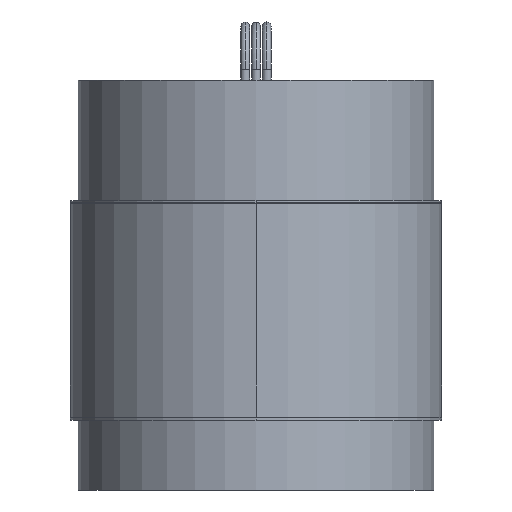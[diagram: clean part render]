
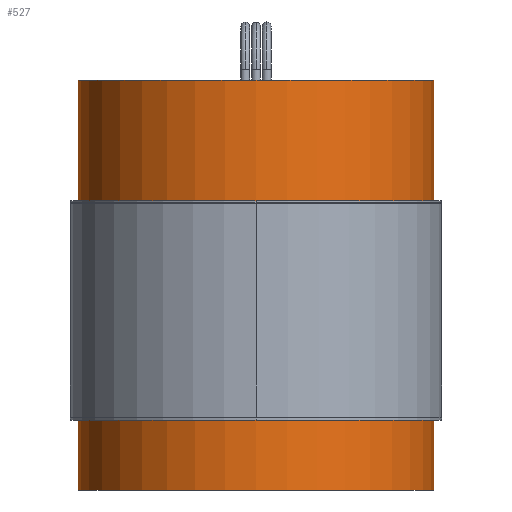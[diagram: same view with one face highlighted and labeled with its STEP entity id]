
A CAD part, front view. The second image highlights one B-rep face of the part: STEP entity #527.
In plain terms, the highlighted cylindrical face has radius 41.974 mm (diameter 83.947 mm), a partial arc.
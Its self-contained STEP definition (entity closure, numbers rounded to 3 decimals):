
#13 = DIRECTION ( 'NONE',  ( 0., 0., 1. ) ) ;
#15 = VERTEX_POINT ( 'NONE', #2223 ) ;
#45 = EDGE_LOOP ( 'NONE', ( #2315, #823, #1054, #630 ) ) ;
#66 = CARTESIAN_POINT ( 'NONE',  ( -41.974, 0., -42.418 ) ) ;
#114 = CIRCLE ( 'NONE', #2142, 41.974 ) ;
#141 = EDGE_CURVE ( 'NONE', #2526, #242, #383, .T. ) ;
#233 = VERTEX_POINT ( 'NONE', #66 ) ;
#242 = VERTEX_POINT ( 'NONE', #1011 ) ;
#383 = LINE ( 'NONE', #3018, #1303 ) ;
#398 = CARTESIAN_POINT ( 'NONE',  ( -41.974, 0., -42.418 ) ) ;
#455 = FACE_OUTER_BOUND ( 'NONE', #45, .T. ) ;
#527 = ADVANCED_FACE ( 'NONE', ( #455 ), #2802, .T. ) ;
#630 = ORIENTED_EDGE ( 'NONE', *, *, #2702, .F. ) ;
#702 = DIRECTION ( 'NONE',  ( 1., 0., 0. ) ) ;
#823 = ORIENTED_EDGE ( 'NONE', *, *, #2201, .T. ) ;
#831 = VECTOR ( 'NONE', #3038, 1000. ) ;
#886 = AXIS2_PLACEMENT_3D ( 'NONE', #1301, #2206, #1007 ) ;
#907 = LINE ( 'NONE', #398, #831 ) ;
#1007 = DIRECTION ( 'NONE',  ( 1., 0., 0. ) ) ;
#1011 = CARTESIAN_POINT ( 'NONE',  ( 41.974, 0., 54.356 ) ) ;
#1054 = ORIENTED_EDGE ( 'NONE', *, *, #141, .T. ) ;
#1301 = CARTESIAN_POINT ( 'NONE',  ( 0., 0., 54.356 ) ) ;
#1303 = VECTOR ( 'NONE', #2798, 1000. ) ;
#1561 = CARTESIAN_POINT ( 'NONE',  ( 41.974, 0., -42.418 ) ) ;
#2142 = AXIS2_PLACEMENT_3D ( 'NONE', #2589, #2635, #2606 ) ;
#2201 = EDGE_CURVE ( 'NONE', #233, #2526, #114, .T. ) ;
#2206 = DIRECTION ( 'NONE',  ( 0., 0., 1. ) ) ;
#2223 = CARTESIAN_POINT ( 'NONE',  ( -41.974, 0., 54.356 ) ) ;
#2315 = ORIENTED_EDGE ( 'NONE', *, *, #3081, .F. ) ;
#2526 = VERTEX_POINT ( 'NONE', #1561 ) ;
#2556 = CIRCLE ( 'NONE', #886, 41.974 ) ;
#2589 = CARTESIAN_POINT ( 'NONE',  ( 0., 0., -42.418 ) ) ;
#2606 = DIRECTION ( 'NONE',  ( 1., 0., 0. ) ) ;
#2633 = AXIS2_PLACEMENT_3D ( 'NONE', #2877, #13, #702 ) ;
#2635 = DIRECTION ( 'NONE',  ( 0., 0., 1. ) ) ;
#2702 = EDGE_CURVE ( 'NONE', #15, #242, #2556, .T. ) ;
#2798 = DIRECTION ( 'NONE',  ( 0., 0., 1. ) ) ;
#2802 = CYLINDRICAL_SURFACE ( 'NONE', #2633, 41.974 ) ;
#2877 = CARTESIAN_POINT ( 'NONE',  ( 0., 0., -42.418 ) ) ;
#3018 = CARTESIAN_POINT ( 'NONE',  ( 41.974, 0., -42.418 ) ) ;
#3038 = DIRECTION ( 'NONE',  ( 0., 0., 1. ) ) ;
#3081 = EDGE_CURVE ( 'NONE', #233, #15, #907, .T. ) ;
